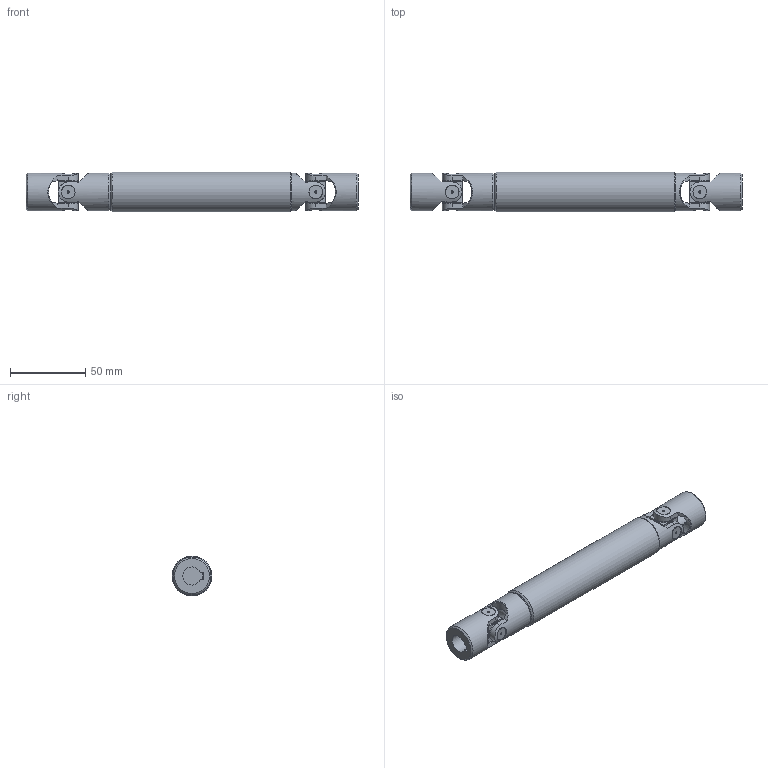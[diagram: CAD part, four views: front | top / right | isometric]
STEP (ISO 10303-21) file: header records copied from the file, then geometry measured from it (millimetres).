
FILE_DESCRIPTION(/* description */ (''),/* implementation_level */ '2;1');
FILE_NAME(/* name */ '\\SRV2016\Societa\Stefano\Disegni 3D\00Catalogo 3D\03Trasmissioni standard GA\!04GA23\!04GA23_SG0A1223.stp',/* time_stamp */ '2022-02-15T10:45:36+01:00',/* author */ ('acquisti'),/* organization */ (''),/* preprocessor_version */ 'ST-DEVELOPER v15.6',/* originating_system */ 'Autodesk Inventor 2015',/* authorisation */ '');
FILE_SCHEMA (('AUTOMOTIVE_DESIGN { 1 0 10303 214 3 1 1 }'));
Length unit declared in the file: millimetre
Products named in the file (5): !04GA23 LCI; !04GA23 LAI; 04G MOC; 04G SFE; !04GA23_SG0A1223
Assembly tree (6 placements, depth 2):
  !04GA23_SG0A1223
    !04GA23 LCI
    !04GA23 LAI
    04G MOC  x2
    04G SFE  x2
Bounding box: 220 x 26.5 x 26.5 mm (x, y, z)
Volume: 86385.7 mm3; surface area: 39724.1 mm2
Topology: 6 solids, 6 shells, 228 faces, 559 edges, 367 vertices
Faces by surface type: plane 106, cylinder 93, cone 25, torus 4
Full cylindrical faces by diameter (mm): 1.5 x8, 12 x1, 12.5 x8, 13 x2, 21 x1, 25 x4, 26.5 x1
Entity records: 5789 total; most frequent: CARTESIAN_POINT 1679, DIRECTION 823, ORIENTED_EDGE 820, EDGE_CURVE 410, AXIS2_PLACEMENT_3D 335, VERTEX_POINT 286, EDGE_LOOP 224, FACE_OUTER_BOUND 176
